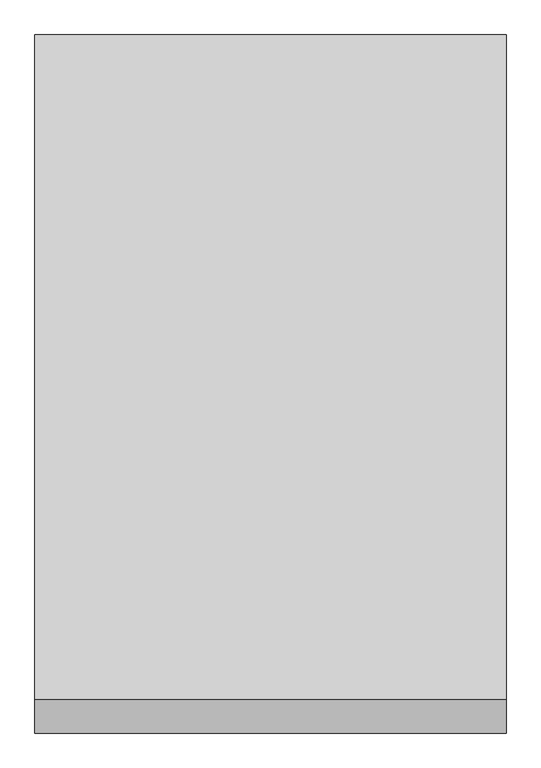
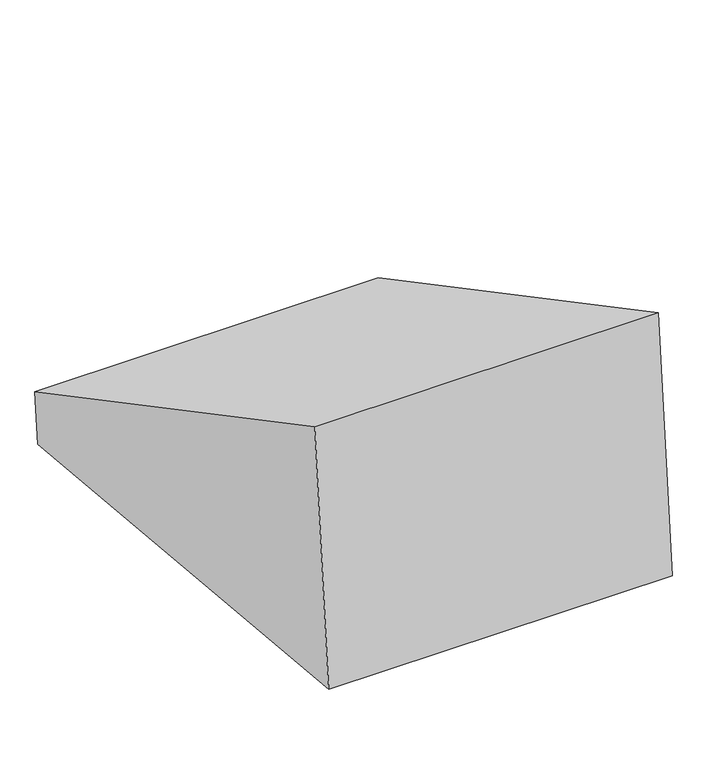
"""IFC4 building model written with IfcOpenShell, lengths in millimetres: proxy geometry, Excavation FamilySP : Excavation FamilySP."""

from ifc_helpers import new_model, si_unit, frame, origin, place, context, project, spatial, polyline, outline, extrude, source, transform, mapped, element, save


def generic_models_859ffe06(model_context):
    return source(origin(), model_context, "Body", "SweptSolid", [
        extrude(outline(polyline([(42.6700904, 466.4806596), (0.0, 0.0), (-4473.9479134, 409.2426081), (-4260.1759958, 2746.2534808), (42.6700904, 466.4806596)])), frame((-1524.0, 0.0, 0.0), z_axis=(1.0, 0.0, 0.0), x_axis=(0.0, 1.0, 0.0)), (0.0, 0.0, 1.0), 3048.0),
    ])


if __name__ == "__main__":
    model = new_model("IFC4")
    model_context = context("Model", 3, world=origin())
    ifc_project = project(units=[si_unit("LENGTHUNIT", "METRE", prefix="MILLI")], contexts=[model_context])
    site = spatial("IfcSite", under=ifc_project)
    building = spatial("IfcBuilding", under=site)
    placement = place(None, origin())
    generic_models_shape = generic_models_859ffe06(model_context)
    element("IfcBuildingElementProxy", 1, Name="Excavation FamilySP : Excavation FamilySP", ObjectType="Excavation FamilySP : Excavation FamilySP", at=placement, inside=building, context=model_context, shape_type="MappedRepresentation", body=[
        mapped(generic_models_shape, transform((0.0, 0.0, 0.0), x_axis=(1.0, 0.0, 0.0), y_axis=(0.0, 1.0, 0.0), z_axis=(0.0, 0.0, 1.0))),
    ])
    save(model, "model.ifc")
